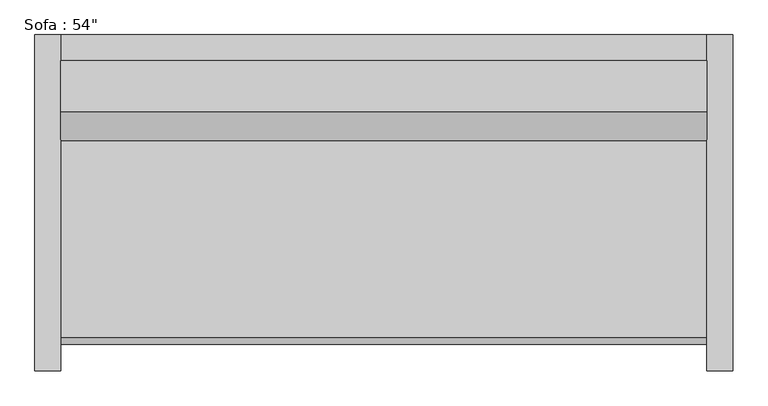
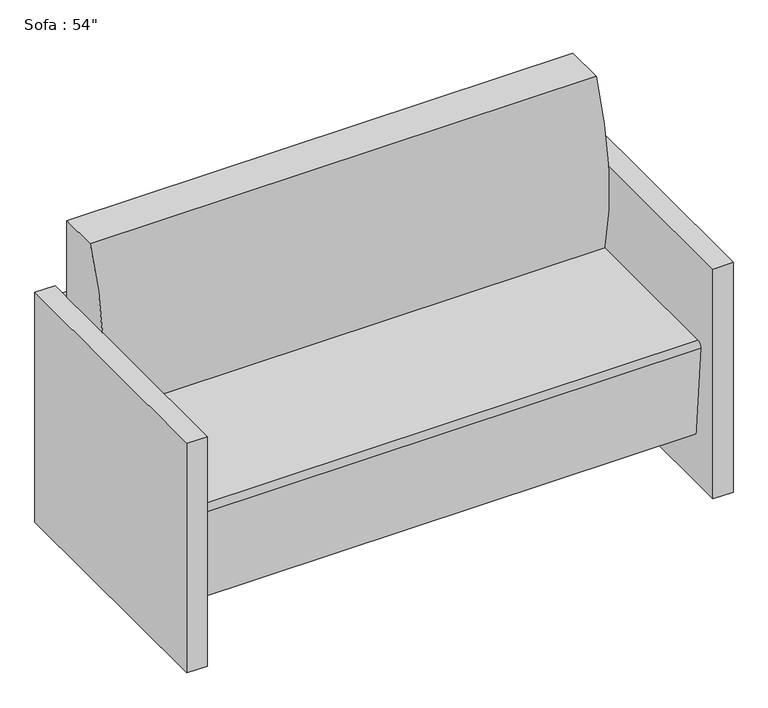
"""IFC4 building model written with IfcOpenShell, lengths in millimetres: furniture geometry."""

from ifc_helpers import new_model, si_unit, point, frame, frame_2d, origin, origin_with_axes, place, context, project, spatial, polyline, circle_curve, trimmed, segment, composite_curve, outline, extrude, source, transform, mapped, element, save


def furniture_22419f35(model_context):
    return source(origin(), model_context, "Body", "SweptSolid", [
        extrude(outline(polyline([(-564.6295082, 425.5540984), (-564.6295082, 476.3540984), (705.3704918, 476.3540984), (705.3704918, 425.5540984), (-564.6295082, 425.5540984)])), frame((0.0, 0.0, 457.2), z_axis=(0.0, 0.0, 1.0), x_axis=(1.0, 0.0, 0.0)), (0.0, 0.0, 1.0), 127.0),
        extrude(outline(polyline([(-564.6295082, 425.5540984), (-564.6295082, 476.3540984), (705.3704918, 476.3540984), (705.3704918, 425.5540984), (-564.6295082, 425.5540984)])), frame((0.0, 0.0, 266.7), z_axis=(0.0, 0.0, 1.0), x_axis=(1.0, 0.0, 0.0)), (0.0, 0.0, 1.0), 127.0),
        extrude(outline(polyline([(-564.6295082, 425.5540984), (-564.6295082, 476.3540984), (705.3704918, 476.3540984), (705.3704918, 425.5540984), (-564.6295082, 425.5540984)])), frame((0.0, 0.0, 76.2), z_axis=(0.0, 0.0, 1.0), x_axis=(1.0, 0.0, 0.0)), (0.0, 0.0, 1.0), 127.0),
        extrude(outline(composite_curve([segment(trimmed(circle_curve(frame_2d((926.517198, 542.5300036)), 660.4), [point((286.1764935, 381.0))], [point((323.9540984, 812.8))], False, "CARTESIAN"), True, "CONTINUOUS"), segment(polyline([(323.9540984, 812.8), (425.5540984, 812.8), (425.5540984, 127.9665467), (-111.108343, 127.9665467), (-132.0379563, 367.1931221)]), True, "CONTINUOUS"), segment(trimmed(circle_curve(frame_2d((-119.3862837, 368.3)), 12.7), [point((-132.0379563, 367.1931221))], [point((-119.3862837, 381.0))], False, "CARTESIAN"), True, "CONTINUOUS"), segment(polyline([(-119.3862837, 381.0), (286.1764935, 381.0)]), True, "CONTINUOUS")], self_intersect=False)), frame((-564.6295082, 0.0, 0.0), z_axis=(1.0, 0.0, 0.0), x_axis=(0.0, 1.0, 0.0)), (0.0, 0.0, 1.0), 1270.0),
        extrude(outline(polyline([(-615.4295082, 476.3540984), (-564.6295082, 476.3540984), (-564.6295082, -184.0459016), (-615.4295082, -184.0459016), (-615.4295082, 476.3540984)])), origin_with_axes(), (0.0, 0.0, 1.0), 609.6),
        extrude(outline(polyline([(756.1704918, 476.3540984), (756.1704918, -184.0459016), (705.3704918, -184.0459016), (705.3704918, 476.3540984), (756.1704918, 476.3540984)])), origin_with_axes(), (0.0, 0.0, 1.0), 609.6),
    ])


if __name__ == "__main__":
    model = new_model("IFC4")
    model_context = context("Model", 3, world=origin())
    ifc_project = project(units=[si_unit("LENGTHUNIT", "METRE", prefix="MILLI")], contexts=[model_context])
    site = spatial("IfcSite", under=ifc_project)
    building = spatial("IfcBuilding", under=site)
    placement = place(None, origin())
    furniture_shape = furniture_22419f35(model_context)
    element("IfcFurniture", 1, ObjectType="Sofa : 54\"", at=placement, inside=building, context=model_context, shape_type="MappedRepresentation", body=[
        mapped(furniture_shape, transform((0.0, 0.0, 0.0), x_axis=(1.0, 0.0, 0.0), y_axis=(0.0, 1.0, 0.0), z_axis=(0.0, 0.0, 1.0))),
    ])
    save(model, "model.ifc")
